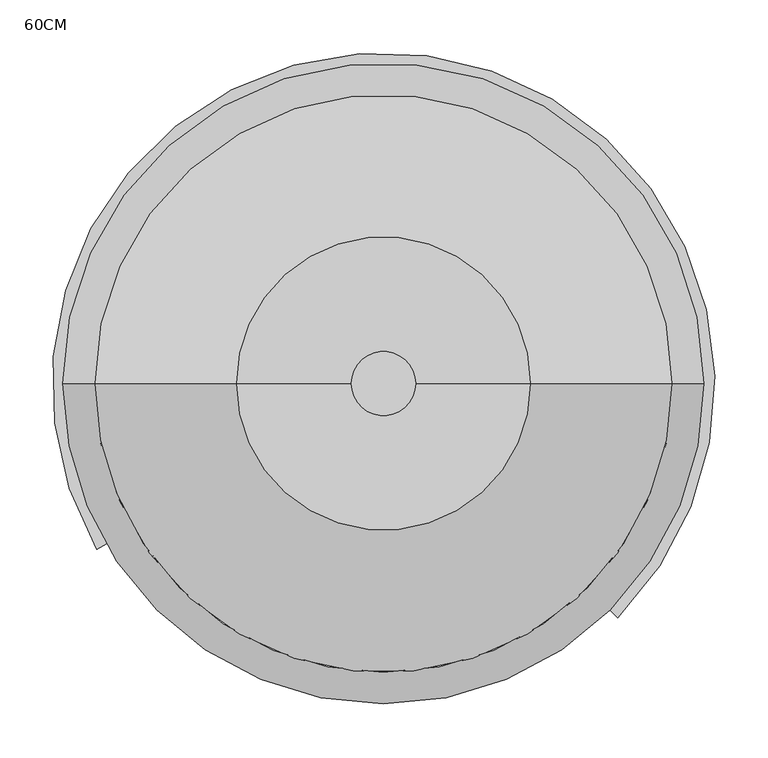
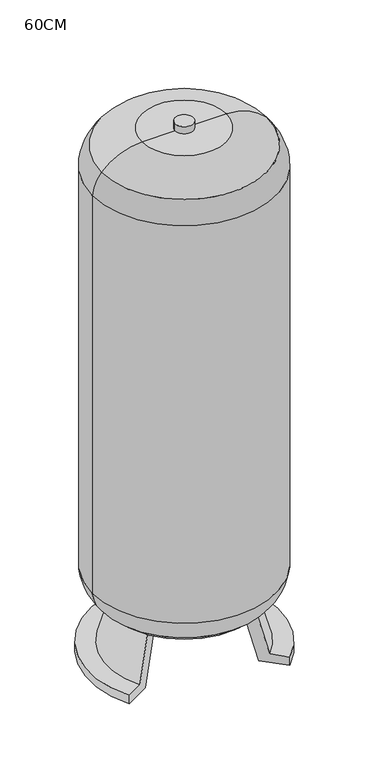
"""IFC4 building model written with IfcOpenShell, lengths in millimetres: flow terminal geometry, _DUPLEX SOFTENER 60CM - : 60CM."""

import ifcopenshell
import ifcopenshell.guid

model = None  # the IFC model being written
_history = None  # IfcOwnerHistory: only IFC2X3 demands one
_inside = {}  # id of a spatial element -> (the spatial element, [elements in it])
_under = {}  # id of a project, library or spatial element -> (it, [spatial elements below it])
_declared = {}  # id of a project -> (the project, [libraries it declares])
_typed = {}  # id of a type object -> (the type object, [elements of that type])
_made_of = {}  # id of a material, layer set ... -> (it, [elements and type objects made of it])


def new_model(schema):
    """Start an empty IFC model of exactly this schema.

    Asked for "IFC4X3", IfcOpenShell would pick the latest addendum, in which some entities
    have other attributes; the version numbers below select the first issue.
    IFC2X3 requires an IfcOwnerHistory on every rooted entity: one is made here for all.
    """
    global model, _history
    if schema == "IFC4X3":
        model = ifcopenshell.file(schema_version=(4, 3, 0, 0))
    else:
        model = ifcopenshell.file(schema=schema)
    _inside.clear()
    _under.clear()
    _declared.clear()
    _typed.clear()
    _made_of.clear()
    _history = None
    if model.schema == "IFC2X3":
        org = make("IfcOrganization", Name="unknown")
        user = make(
            "IfcPersonAndOrganization",
            ThePerson=make("IfcPerson", FamilyName="unknown"),
            TheOrganization=org,
        )
        app = make(
            "IfcApplication",
            ApplicationDeveloper=org,
            Version="unknown",
            ApplicationFullName="unknown",
            ApplicationIdentifier="unknown",
        )
        _history = make(
            "IfcOwnerHistory",
            OwningUser=user,
            OwningApplication=app,
            ChangeAction="ADDED",
            CreationDate=0,
        )
    return model


def make(cls, **values):
    """One entity of the class cls with the attributes given. An attribute that is None is left unset."""
    return model.create_entity(
        cls, **{name: value for name, value in values.items() if value is not None}
    )


def rooted(cls, **values):
    """An entity with a GlobalId (a new one), such as an element, a storey or a relation."""
    return make(cls, GlobalId=ifcopenshell.guid.new(), OwnerHistory=_history, **values)


def si_unit(unit_type, name, prefix=None):
    """IfcSIUnit, for example si_unit("LENGTHUNIT", "METRE", prefix="MILLI")."""
    return make("IfcSIUnit", UnitType=unit_type, Prefix=prefix, Name=name)


def assignment(units):
    """IfcUnitAssignment: the units of a project."""
    return None if units is None else make("IfcUnitAssignment", Units=units)


def point(xyz):
    """IfcCartesianPoint."""
    return None if xyz is None else make("IfcCartesianPoint", Coordinates=xyz)


def direction(xyz):
    """IfcDirection."""
    return None if xyz is None else make("IfcDirection", DirectionRatios=xyz)


def frame(location, z_axis=None, x_axis=None):
    """IfcAxis2Placement3D, a coordinate frame: its origin and axes. An axis left out is left unset."""
    return make(
        "IfcAxis2Placement3D",
        Location=point(location),
        Axis=direction(z_axis),
        RefDirection=direction(x_axis),
    )


def frame_2d(location, x_axis=None):
    """IfcAxis2Placement2D, a coordinate frame in the plane: its origin and x axis."""
    return make(
        "IfcAxis2Placement2D", Location=point(location), RefDirection=direction(x_axis)
    )


def origin():
    """The frame at (0, 0, 0) with its axes left unset."""
    return frame((0.0, 0.0, 0.0))


def origin_2d():
    """The frame at (0, 0) in the plane with its x axis left unset."""
    return frame_2d((0.0, 0.0))


def place(relative_to, where):
    """IfcLocalPlacement: puts the frame where relative to a parent placement (None: the world)."""
    return make(
        "IfcLocalPlacement", PlacementRelTo=relative_to, RelativePlacement=where
    )


def context(
    kind, dimensions, precision=None, world=None, true_north=None, identifier=None
):
    """IfcGeometricRepresentationContext, for example the 3D "Model" context."""
    return make(
        "IfcGeometricRepresentationContext",
        ContextIdentifier=identifier,
        ContextType=kind,
        CoordinateSpaceDimension=dimensions,
        Precision=precision,
        WorldCoordinateSystem=world,
        TrueNorth=true_north,
    )


def project(units=None, contexts=None):
    """IfcProject with its units and contexts."""
    return rooted(
        "IfcProject",
        Name="project",
        RepresentationContexts=contexts,
        UnitsInContext=assignment(units),
    )


def spatial(cls, under=None, at=None, **own):
    """A site, building, storey or space (cls), placed at a placement, below another one or the project."""
    s = rooted(cls, ObjectPlacement=at, **own)
    if under is not None:
        _under.setdefault(under.id(), (under, []))[1].append(s)
    return s


def polyline(points):
    """IfcPolyline through the points."""
    return make("IfcPolyline", Points=[point(p) for p in points])


def circle_curve(where, radius):
    """IfcCircle in the frame where."""
    return make("IfcCircle", Position=where, Radius=radius)


def ellipse_curve(where, semi_axis1, semi_axis2):
    """IfcEllipse in the frame where."""
    return make(
        "IfcEllipse", Position=where, SemiAxis1=semi_axis1, SemiAxis2=semi_axis2
    )


def trimmed(basis, trim1, trim2, sense, master):
    """IfcTrimmedCurve: the piece of a basis curve between two trims."""
    return make(
        "IfcTrimmedCurve",
        BasisCurve=basis,
        Trim1=trim1,
        Trim2=trim2,
        SenseAgreement=sense,
        MasterRepresentation=master,
    )


def segment(curve, same_sense, transition):
    """IfcCompositeCurveSegment."""
    return make(
        "IfcCompositeCurveSegment",
        Transition=transition,
        SameSense=same_sense,
        ParentCurve=curve,
    )


def composite_curve(segments, self_intersect=None):
    """IfcCompositeCurve: segments joined end to end."""
    return make("IfcCompositeCurve", Segments=segments, SelfIntersect=self_intersect)


def outline(outer, holes=None, kind="AREA"):
    """IfcArbitraryClosedProfileDef: a profile drawn as a closed curve; with holes, ...WithVoids."""
    if holes is None:
        return make("IfcArbitraryClosedProfileDef", ProfileType=kind, OuterCurve=outer)
    return make(
        "IfcArbitraryProfileDefWithVoids",
        ProfileType=kind,
        OuterCurve=outer,
        InnerCurves=holes,
    )


def extrude(swept, where, along, depth):
    """IfcExtrudedAreaSolid: the profile swept, set in the frame where, extruded along a direction by depth."""
    return make(
        "IfcExtrudedAreaSolid",
        SweptArea=swept,
        Position=where,
        ExtrudedDirection=direction(along),
        Depth=depth,
    )


def shape(context_of_items, identifier, shape_type, items):
    """IfcShapeRepresentation: the items that make up one representation, for example the "Body"."""
    return make(
        "IfcShapeRepresentation",
        ContextOfItems=context_of_items,
        RepresentationIdentifier=identifier,
        RepresentationType=shape_type,
        Items=items,
    )


def source(mapping_origin, context_of_items, identifier, shape_type, items):
    """IfcRepresentationMap: a shape defined once, which mapped items show again and again."""
    return make(
        "IfcRepresentationMap",
        MappingOrigin=mapping_origin,
        MappedRepresentation=shape(context_of_items, identifier, shape_type, items),
    )


def transform(
    local_origin,
    x_axis=None,
    y_axis=None,
    z_axis=None,
    scale=None,
    scale2=None,
    scale3=None,
    uniform=True,
):
    """IfcCartesianTransformationOperator3D, or its non-uniform kind. x_axis, y_axis, z_axis: its Axis1, 2, 3."""
    if uniform:
        return make(
            "IfcCartesianTransformationOperator3D",
            Axis1=direction(x_axis),
            Axis2=direction(y_axis),
            LocalOrigin=point(local_origin),
            Scale=scale,
            Axis3=direction(z_axis),
        )
    return make(
        "IfcCartesianTransformationOperator3DnonUniform",
        Axis1=direction(x_axis),
        Axis2=direction(y_axis),
        LocalOrigin=point(local_origin),
        Scale=scale,
        Axis3=direction(z_axis),
        Scale2=scale2,
        Scale3=scale3,
    )


def mapped(mapping_source, mapping_target):
    """IfcMappedItem: shows the shape of a source again, moved by a transform."""
    return make(
        "IfcMappedItem", MappingSource=mapping_source, MappingTarget=mapping_target
    )


def made_of(thing, what):
    """Note that an element or type object is made of a material, layer set ...; save() writes the relation."""
    if what is not None:
        _made_of.setdefault(what.id(), (what, []))[1].append(thing)
    return thing


def element(
    cls,
    number,
    at=None,
    inside=None,
    cuts=None,
    type_object=None,
    material=None,
    context=None,
    identifier="Body",
    shape_type=None,
    held_by="IfcProductDefinitionShape",
    body=None,
    shapes=None,
    **own,
):
    """One element of the class cls, such as IfcWall. Its Tag is "e" and its number.

    at: its placement. inside: the storey or other place that contains it. cuts: it is an
    opening in that element (IfcRelVoidsElement). A single representation is given by context,
    identifier, shape_type and body (its items); several are given by shapes. held_by: the class
    of the entity that holds the representations. save() writes the other relations.
    """
    e = rooted(cls, Tag="e%d" % number, ObjectPlacement=at, **own)
    if body is not None:
        shapes = [shape(context, identifier, shape_type, body)]
    if shapes is not None:
        e.Representation = make(held_by, Representations=shapes)
    if inside is not None:
        _inside.setdefault(inside.id(), (inside, []))[1].append(e)
    if cuts is not None:
        rooted(
            "IfcRelVoidsElement", RelatingBuildingElement=cuts, RelatedOpeningElement=e
        )
    if type_object is not None:
        _typed.setdefault(type_object.id(), (type_object, []))[1].append(e)
    return made_of(e, material)


def aggregate(whole, parts):
    """IfcRelAggregates: a whole, such as a stair, and the parts it consists of."""
    return rooted("IfcRelAggregates", RelatingObject=whole, RelatedObjects=parts)


def save(model, path):
    """Write the relations noted so far, then the file.

    IfcRelAggregates (storeys below a building ...), IfcRelContainedInSpatialStructure (elements
    in a storey), IfcRelDefinesByType, IfcRelAssociatesMaterial and IfcRelDeclares: one each for
    every whole, place, type object, material and project.
    """
    for whole, parts in _under.values():
        aggregate(whole, parts)
    for where, things in _inside.values():
        rooted(
            "IfcRelContainedInSpatialStructure",
            RelatedElements=things,
            RelatingStructure=where,
        )
    for kind, things in _typed.values():
        rooted("IfcRelDefinesByType", RelatedObjects=things, RelatingType=kind)
    for what, things in _made_of.values():
        rooted("IfcRelAssociatesMaterial", RelatedObjects=things, RelatingMaterial=what)
    for by, libraries in _declared.values():
        rooted("IfcRelDeclares", RelatingContext=by, RelatedDefinitions=libraries)
    model.write(path)


def plane_surface(at):
    """IfcPlane: the flat surface through the origin of the frame at, square to its z axis."""
    return make("IfcPlane", Position=at)


def cylinder_surface(at, radius):
    """IfcCylindricalSurface: all points at the distance radius from the z axis of the frame at."""
    return make("IfcCylindricalSurface", Position=at, Radius=radius)


def revolved_surface(curve, axis_point, axis_direction):
    """IfcSurfaceOfRevolution: the curve turned about the line through axis_point along axis_direction."""
    return make(
        "IfcSurfaceOfRevolution",
        SweptCurve=make("IfcArbitraryOpenProfileDef", ProfileType="CURVE", Curve=curve),
        AxisPosition=make("IfcAxis1Placement", Location=point(axis_point), Axis=direction(axis_direction)),
    )


def advanced_brep(points, edges, surfaces, faces):
    """IfcAdvancedBrep: a solid bounded by faces that lie on surfaces and meet in shared edges.

    An edge is (start, end): straight between two places in points (the first is 0);
    or (start, end, curve); or (start, end, curve, False) where it runs against its curve.
    A face is (place in surfaces, loops), or (place, loops, False) where it looks against
    its surface's normal. A loop lists edges by number (the first is 1), with a minus sign
    where the edge is run from its end to its start. The first loop is the outer one.
    """
    corners = [point(p) for p in points]
    vertices = [make("IfcVertexPoint", VertexGeometry=c) for c in corners]
    made = []
    for start, end, *more in edges:
        made.append(
            make(
                "IfcEdgeCurve",
                EdgeStart=vertices[start],
                EdgeEnd=vertices[end],
                EdgeGeometry=more[0] if more else make("IfcPolyline", Points=[corners[start], corners[end]]),
                SameSense=more[1] if len(more) > 1 else True,
            )
        )
    hull = []
    for where, loops, *sense in faces:
        bounds = []
        for j, loop in enumerate(loops):
            ring = [make("IfcOrientedEdge", EdgeElement=made[abs(k) - 1], Orientation=k > 0) for k in loop]
            bounds.append(
                make(
                    "IfcFaceOuterBound" if j == 0 else "IfcFaceBound",
                    Bound=make("IfcEdgeLoop", EdgeList=ring),
                    Orientation=True,
                )
            )
        hull.append(make("IfcAdvancedFace", Bounds=bounds, FaceSurface=surfaces[where], SameSense=sense[0] if sense else True))
    return make("IfcAdvancedBrep", Outer=make("IfcClosedShell", CfsFaces=hull))


def flow_terminal_60cm_be37bac6(model_context):
    return source(origin(), model_context, "Body", "SolidModel", [
        extrude(outline(composite_curve([segment(trimmed(circle_curve(origin_2d(), 31.5), [point((31.5, 0.0))], [point((-31.5, 0.0))], False, "CARTESIAN"), True, "CONTINUOUS"), segment(trimmed(circle_curve(origin_2d(), 31.5), [point((-31.5, 0.0))], [point((31.5, 0.0))], False, "CARTESIAN"), True, "CONTINUOUS")], self_intersect=False)), frame((0.0, 0.0, 143.5224269), z_axis=(0.0, 0.0, 1.0), x_axis=(1.0, 0.0, 0.0)), (0.0, 0.0, 1.0), 25.0),
        advanced_brep(
        [(-137.3646911, 0.0, 170.0), (137.3646911, 0.0, 170.0), (0.0, 0.0, 170.0), (137.3646911, 0.0, 1800.0), (-137.3646911, 0.0, 1800.0), (-30.0, 0.0, 1800.0), (30.0, 0.0, 1800.0), (-300.0, 0.0, 1671.2842497), (300.0, 0.0, 1671.2842497), (300.0, 0.0, 298.7157503), (-300.0, 0.0, 298.7157503), (154.7283228, -154.7283228, 0.0), (219.2031022, -219.2031022, 0.0), (219.2031022, -219.2031022, 28.5224269), (177.229398, -177.229398, 28.5224269), (145.7889001, -145.7889001, 183.5853527), (119.6850882, -119.6850882, 172.831439), (-217.0607962, -125.3201091, 28.5224269), (-268.4678752, -155.0, 28.5224269), (-268.4678752, -155.0, 0.0), (-189.5027198, -109.4094463, 0.0), (-146.5836979, -84.6301375, 172.831439), (-178.5542077, -103.0883199, 183.5853527), (-206.1766398, 0.0, 183.5853527), (206.1766398, 0.0, 183.5853527), (169.2602749, 0.0, 172.831439), (-169.2602749, 0.0, 172.831439), (-270.439329, 0.0, 228.2822685), (270.439329, 0.0, 228.2822685), (-270.439329, 0.0, 1741.7177315), (270.439329, 0.0, 1741.7177315), (30.0, 0.0, 1825.0), (-30.0, 0.0, 1825.0)],
        [
            (0, 1, circle_curve(frame((0.0, 0.0, 170.0), z_axis=(0.0, 0.0, -1.0), x_axis=(1.0, 0.0, 0.0)), 137.3646911)),
            (1, 2),
            (2, 0),
            (1, 0, circle_curve(frame((0.0, 0.0, 170.0), z_axis=(0.0, 0.0, -1.0), x_axis=(1.0, 0.0, 0.0)), 137.3646911)),
            (3, 4, circle_curve(frame((0.0, 0.0, 1800.0), z_axis=(0.0, 0.0, 1.0), x_axis=(1.0, 0.0, 0.0)), 137.3646911)),
            (4, 5),
            (5, 6, circle_curve(frame((0.0, 0.0, 1800.0), z_axis=(0.0, 0.0, -1.0), x_axis=(-1.0, 0.0, 0.0)), 30.0)),
            (6, 3),
            (4, 3, circle_curve(frame((0.0, 0.0, 1800.0), z_axis=(0.0, 0.0, 1.0), x_axis=(1.0, 0.0, 0.0)), 137.3646911)),
            (6, 5, circle_curve(frame((0.0, 0.0, 1800.0), z_axis=(0.0, 0.0, -1.0), x_axis=(-1.0, 0.0, 0.0)), 30.0)),
            (7, 8, circle_curve(frame((0.0, 0.0, 1671.2842497), z_axis=(0.0, 0.0, -1.0), x_axis=(1.0, 0.0, 0.0)), 300.0)),
            (8, 9),
            (9, 10, circle_curve(frame((0.0, 0.0, 298.7157503), z_axis=(0.0, 0.0, 1.0), x_axis=(1.0, 0.0, 0.0)), 300.0)),
            (10, 7),
            (8, 7, circle_curve(frame((0.0, 0.0, 1671.2842497), z_axis=(0.0, 0.0, -1.0), x_axis=(1.0, 0.0, 0.0)), 300.0)),
            (10, 9, circle_curve(frame((0.0, 0.0, 298.7157503), z_axis=(0.0, 0.0, 1.0), x_axis=(1.0, 0.0, 0.0)), 300.0)),
            (11, 12),
            (12, 13),
            (13, 14),
            (14, 15),
            (15, 16, circle_curve(frame((97.1315046, -97.1315046, 351.0643496), z_axis=(0.7071067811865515, 0.7071067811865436, 0.0), x_axis=(0.7071067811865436, -0.7071067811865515, 0.0)), 181.0643496)),
            (16, 11),
            (17, 18),
            (18, 19),
            (19, 20),
            (20, 21),
            (21, 22, circle_curve(frame((-118.9613121, -68.6823456, 351.0643496), z_axis=(-0.4999999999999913, 0.8660254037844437, 0.0), x_axis=(-0.8660254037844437, -0.4999999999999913, 0.0)), 181.0643496)),
            (22, 17),
            (11, 20, circle_curve(frame((0.0, 0.0, 0.0), z_axis=(0.0, 0.0, 1.0), x_axis=(0.7071067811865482, -0.707106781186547, 0.0)), 218.8188926)),
            (19, 12, circle_curve(frame((0.0, 0.0, 0.0), z_axis=(0.0, 0.0, -1.0), x_axis=(0.7071067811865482, -0.707106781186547, 0.0)), 310.0)),
            (18, 13, circle_curve(frame((0.0, 0.0, 28.5224269), z_axis=(0.0, 0.0, -1.0), x_axis=(0.7071067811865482, -0.707106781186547, 0.0)), 310.0)),
            (17, 14, circle_curve(frame((0.0, 0.0, 28.5224269), z_axis=(0.0, 0.0, -1.0), x_axis=(0.7071067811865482, -0.707106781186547, 0.0)), 250.6402183)),
            (22, 23, circle_curve(frame((0.0, 0.0, 183.5853527), z_axis=(0.0, 0.0, -1.0), x_axis=(0.7071067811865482, -0.707106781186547, 0.0)), 206.1766398)),
            (23, 24, circle_curve(frame((0.0, 0.0, 183.5853527), z_axis=(0.0, 0.0, -1.0), x_axis=(0.7071067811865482, -0.707106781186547, 0.0)), 206.1766398)),
            (24, 15, circle_curve(frame((0.0, 0.0, 183.5853527), z_axis=(0.0, 0.0, -1.0), x_axis=(0.7071067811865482, -0.707106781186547, 0.0)), 206.1766398)),
            (16, 25, circle_curve(frame((0.0, 0.0, 172.831439), z_axis=(0.0, 0.0, 1.0), x_axis=(0.7071067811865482, -0.707106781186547, 0.0)), 169.2602749)),
            (25, 26, circle_curve(frame((0.0, 0.0, 172.831439), z_axis=(0.0, 0.0, 1.0), x_axis=(0.7071067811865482, -0.707106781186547, 0.0)), 169.2602749)),
            (26, 21, circle_curve(frame((0.0, 0.0, 172.831439), z_axis=(0.0, 0.0, 1.0), x_axis=(0.7071067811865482, -0.707106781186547, 0.0)), 169.2602749)),
            (0, 26, circle_curve(frame((-137.3646911, 0.0, 351.0643496), z_axis=(0.0, 1.0, 0.0), x_axis=(-1.0, 0.0, 0.0)), 181.0643496)),
            (25, 1, circle_curve(frame((137.3646911, 0.0, 351.0643496), z_axis=(0.0, 1.0, 0.0), x_axis=(1.0, 0.0, 0.0)), 181.0643496)),
            (27, 28, circle_curve(frame((0.0, 0.0, 228.2822685), z_axis=(0.0, 0.0, -1.0), x_axis=(1.0, 0.0, 0.0)), 270.439329)),
            (28, 24, circle_curve(frame((137.3646911, 0.0, 351.0643496), z_axis=(0.0, 1.0, 0.0), x_axis=(1.0, 0.0, 0.0)), 181.0643496)),
            (23, 27, circle_curve(frame((-137.3646911, 0.0, 351.0643496), z_axis=(0.0, 1.0, 0.0), x_axis=(-1.0, 0.0, 0.0)), 181.0643496)),
            (28, 27, circle_curve(frame((0.0, 0.0, 228.2822685), z_axis=(0.0, 0.0, -1.0), x_axis=(1.0, 0.0, 0.0)), 270.439329)),
            (9, 28, circle_curve(frame((176.8336808, 0.0, 308.9882046), z_axis=(0.0, 1.0, 0.0), x_axis=(1.0, 0.0, 0.0)), 123.5939542)),
            (27, 10, circle_curve(frame((-176.8336808, 0.0, 308.9882046), z_axis=(0.0, 1.0, 0.0), x_axis=(-1.0, 0.0, 0.0)), 123.5939542)),
            (7, 29, circle_curve(frame((-176.8336808, 0.0, 1661.0117954), z_axis=(0.0, 1.0, 0.0), x_axis=(-1.0, 0.0, 0.0)), 123.5939542)),
            (29, 30, circle_curve(frame((0.0, 0.0, 1741.7177315), z_axis=(0.0, 0.0, -1.0), x_axis=(1.0, 0.0, 0.0)), 270.439329)),
            (30, 8, circle_curve(frame((176.8336808, 0.0, 1661.0117954), z_axis=(0.0, 1.0, 0.0), x_axis=(1.0, 0.0, 0.0)), 123.5939542)),
            (30, 29, circle_curve(frame((0.0, 0.0, 1741.7177315), z_axis=(0.0, 0.0, -1.0), x_axis=(1.0, 0.0, 0.0)), 270.439329)),
            (3, 30, circle_curve(frame((137.3646911, 0.0, 1618.9356504), z_axis=(0.0, 1.0, 0.0), x_axis=(1.0, 0.0, 0.0)), 181.0643496)),
            (29, 4, circle_curve(frame((-137.3646911, 0.0, 1618.9356504), z_axis=(0.0, 1.0, 0.0), x_axis=(-1.0, 0.0, 0.0)), 181.0643496)),
            (31, 32, circle_curve(frame((0.0, 0.0, 1825.0), z_axis=(0.0, 0.0, 1.0), x_axis=(-1.0, 0.0, 0.0)), 30.0)),
            (32, 31, circle_curve(frame((0.0, 0.0, 1825.0), z_axis=(0.0, 0.0, 1.0), x_axis=(-1.0, 0.0, 0.0)), 30.0)),
            (31, 6),
            (5, 32),
        ],
        [
            plane_surface(frame((0.0, 0.0, 170.0), z_axis=(0.0, 0.0, -1.0), x_axis=(1.0, 0.0, 0.0))),
            plane_surface(frame((0.0, 0.0, 1800.0), z_axis=(0.0, 0.0, 1.0), x_axis=(1.0, 0.0, 0.0))),
            cylinder_surface(frame((0.0, 0.0, 2975.24357), z_axis=(0.0, 0.0, 1.0), x_axis=(1.0, 0.0, 0.0)), 300.0),
            plane_surface(frame((0.0, 0.0, 2975.24357), z_axis=(-0.707106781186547, -0.7071067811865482, 0.0), x_axis=(0.7071067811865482, -0.707106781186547, 0.0))),
            plane_surface(frame((0.0, 0.0, 2975.24357), z_axis=(0.499999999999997, -0.8660254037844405, 0.0), x_axis=(-0.8660254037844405, -0.499999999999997, 0.0))),
            plane_surface(frame((0.0, 0.0, 0.0), z_axis=(0.0, 0.0, -1.0000000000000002), x_axis=(0.7071067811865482, -0.707106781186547, 0.0))),
            cylinder_surface(frame((0.0, 0.0, 2975.24357), z_axis=(0.0, 0.0, 1.0), x_axis=(0.7071067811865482, -0.707106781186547, 0.0)), 310.0),
            plane_surface(frame((0.0, 0.0, 28.5224269), z_axis=(0.0, 0.0, 1.0000000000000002), x_axis=(0.7071067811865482, -0.707106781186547, 0.0))),
            revolved_surface(polyline([(177.229398, -177.229398, 28.5224269), (134.6394352, -134.6394352, 238.573943)]), (0.0, 0.0, 2975.24357), (0.0, 0.0, 1.0)),
            revolved_surface(polyline([(106.3551639, -106.3551639, 238.573943), (154.7283228, -154.7283228, 0.0)]), (0.0, 0.0, 2975.24357), (0.0, 0.0, 1.0)),
            revolved_surface(trimmed(ellipse_curve(frame((137.3646911, 0.0, 351.0643496), z_axis=(0.0, -1.0, 0.0), x_axis=(1.0, 0.0, 0.0)), 181.0643496, 181.0643496), [point((137.3646911, 0.0, 170.0))], [point((270.439329, 0.0, 228.2822685))], True, "CARTESIAN"), (0.0, 0.0, 2975.24357), (0.0, 0.0, 1.0)),
            revolved_surface(trimmed(ellipse_curve(frame((176.8336808, 0.0, 308.9882046), z_axis=(0.0, -1.0, 0.0), x_axis=(1.0, 0.0, 0.0)), 123.5939542, 123.5939542), [point((270.439329, 0.0, 228.2822685))], [point((300.0, 0.0, 298.7157503))], True, "CARTESIAN"), (0.0, 0.0, 2975.24357), (0.0, 0.0, 1.0)),
            revolved_surface(trimmed(ellipse_curve(frame((176.8336808, 0.0, 1661.0117954), z_axis=(0.0, -1.0, 0.0), x_axis=(1.0, 0.0, 0.0)), 123.5939542, 123.5939542), [point((300.0, 0.0, 1671.2842497))], [point((270.439329, 0.0, 1741.7177315))], True, "CARTESIAN"), (0.0, 0.0, 2975.24357), (0.0, 0.0, 1.0)),
            revolved_surface(trimmed(ellipse_curve(frame((137.3646911, 0.0, 1618.9356504), z_axis=(0.0, -1.0, 0.0), x_axis=(1.0, 0.0, 0.0)), 181.0643496, 181.0643496), [point((270.439329, 0.0, 1741.7177315))], [point((137.3646911, 0.0, 1800.0))], True, "CARTESIAN"), (0.0, 0.0, 2975.24357), (0.0, 0.0, 1.0)),
            plane_surface(frame((-30.0, 0.0, 1825.0), z_axis=(0.0, 0.0, 1.0), x_axis=(0.0, -1.0, 0.0))),
            cylinder_surface(frame((0.0, 0.0, 1788.1951039), z_axis=(0.0, 0.0, 1.0), x_axis=(-1.0, 0.0, 0.0)), 30.0),
        ],
        [
            (0, [[1, 2, 3]]),
            (0, [[-2, 4, -3]]),
            (1, [[5, 6, 7, 8]]),
            (1, [[9, -8, 10, -6]]),
            (2, [[11, 12, 13, 14]]),
            (2, [[-12, 15, -14, 16]]),
            (3, [[17, 18, 19, 20, 21, 22]]),
            (4, [[23, 24, 25, 26, 27, 28]]),
            (5, [[-17, 29, -25, 30]]),
            (6, [[-18, -30, -24, 31]]),
            (7, [[-19, -31, -23, 32]]),
            (8, [[-32, -28, 33, 34, 35, -20]]),
            (9, [[-29, -22, 36, 37, 38, -26]]),
            (10, [[-1, 39, -37, 40]]),
            (10, [[41, 42, -34, 43]]),
            (10, [[-4, -40, -36, -21, -35, -42, 44, -43, -33, -27, -38, -39]]),
            (11, [[-13, 45, -41, 46]]),
            (11, [[-16, -46, -44, -45]]),
            (12, [[-11, 47, 48, 49]]),
            (12, [[-15, -49, 50, -47]]),
            (13, [[-5, 51, -48, 52]]),
            (13, [[-9, -52, -50, -51]]),
            (14, [[53, 54]]),
            (15, [[-53, 55, -7, 56]]),
            (15, [[-54, -56, -10, -55]]),
        ],
    ),
    ])


if __name__ == "__main__":
    model = new_model("IFC4")
    model_context = context("Model", 3, world=origin())
    ifc_project = project(units=[si_unit("LENGTHUNIT", "METRE", prefix="MILLI")], contexts=[model_context])
    site = spatial("IfcSite", under=ifc_project)
    building = spatial("IfcBuilding", under=site)
    placement = place(None, origin())
    flow_terminal_60cm_shape = flow_terminal_60cm_be37bac6(model_context)
    element("IfcFlowTerminal", 1, ObjectType="_DUPLEX SOFTENER 60CM - : 60CM", at=placement, inside=building, context=model_context, shape_type="MappedRepresentation", body=[
        mapped(flow_terminal_60cm_shape, transform((0.0, 0.0, 0.0), x_axis=(1.0, 0.0, 0.0), y_axis=(0.0, 1.0, 0.0), z_axis=(0.0, 0.0, 1.0))),
    ])
    save(model, "model.ifc")
